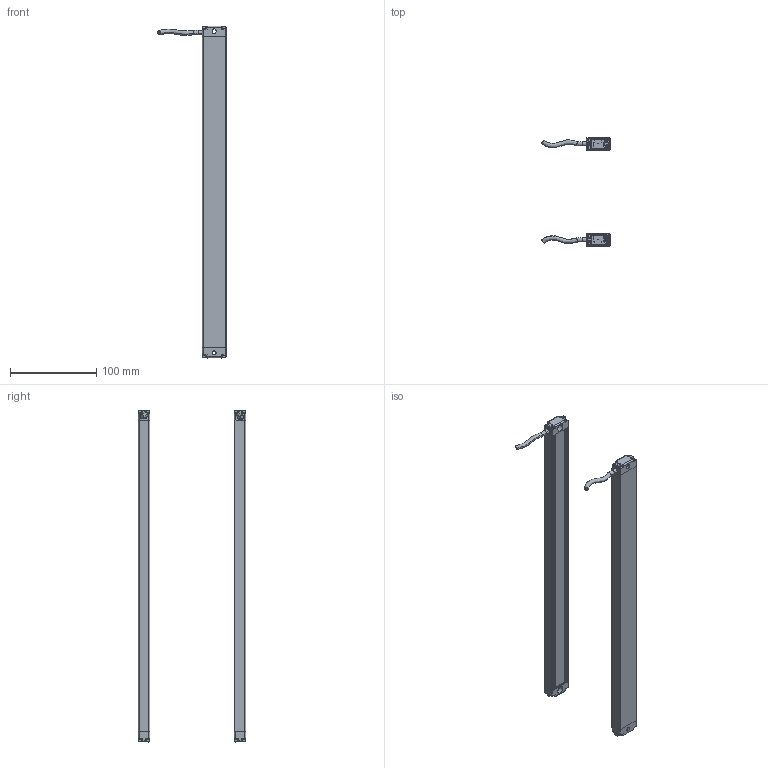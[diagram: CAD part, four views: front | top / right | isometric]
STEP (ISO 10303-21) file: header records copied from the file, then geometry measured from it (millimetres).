
FILE_DESCRIPTION(/* description */ (''),/* implementation_level */ '2;1');
FILE_NAME(/* name */ '3610(13X28).stp',/* time_stamp */ '2018-11-20T16:40:47+08:00',/* author */ (''),/* organization */ (''),/* preprocessor_version */ 'ST-DEVELOPER v16',/* originating_system */ 'SIEMENS PLM Software NX 10.0',/* authorisation */ '');
FILE_SCHEMA (('AP203_CONFIGURATION_CONTROLLED_3D_DESIGN_OF_MECHANICAL_PARTS_AND_ASSEMBLIES_MIM_LF { 1 0 10303 403 2 1 2}'));
Length unit declared in the file: millimetre
Products named in the file (1): Admi1E28F8F3dpn8
Bounding box: 79.6 x 125.02 x 386 mm (x, y, z)
Volume: 114678.3 mm3; surface area: 151782.7 mm2
Topology: 10 solids, 10 shells, 760 faces, 2180 edges, 1449 vertices
Faces by surface type: plane 356, cylinder 312, torus 52, bspline 40
Entity records: 28409 total; most frequent: CARTESIAN_POINT 8637, ORIENTED_EDGE 4360, DIRECTION 3843, EDGE_CURVE 2180, VERTEX_POINT 1449, AXIS2_PLACEMENT_3D 1315, LINE 1213, VECTOR 1213
